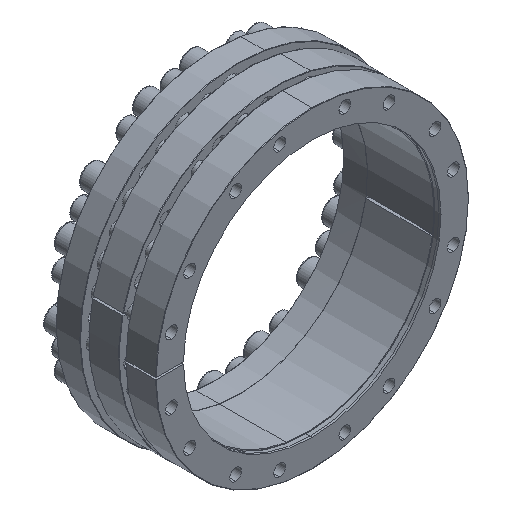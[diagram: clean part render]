
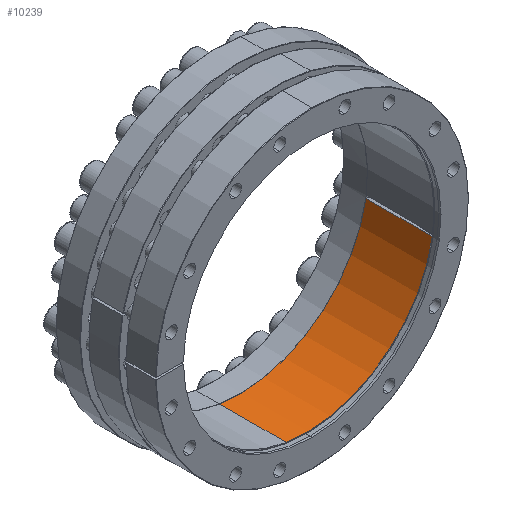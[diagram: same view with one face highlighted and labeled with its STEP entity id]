
A CAD part, isometric view. The second image highlights one B-rep face of the part: STEP entity #10239.
In plain terms, the highlighted cylindrical face has radius 190 mm (diameter 380 mm), a partial arc.
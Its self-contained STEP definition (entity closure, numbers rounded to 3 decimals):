
#722 = DIRECTION ( 'NONE',  ( 0., -1., 0. ) ) ;
#1851 = CARTESIAN_POINT ( 'NONE',  ( -29.723, 108.005, -187.661 ) ) ;
#2387 = CARTESIAN_POINT ( 'NONE',  ( 0., 108.005, 0. ) ) ;
#2584 = CARTESIAN_POINT ( 'NONE',  ( -29.723, 9.005, -187.661 ) ) ;
#4418 = CARTESIAN_POINT ( 'NONE',  ( 0., 9.005, 0. ) ) ;
#4825 = CIRCLE ( 'NONE', #48620, 190. ) ;
#4828 = LINE ( 'NONE', #30777, #23589 ) ;
#6174 = DIRECTION ( 'NONE',  ( -0.156, 0., -0.988 ) ) ;
#6777 = EDGE_CURVE ( 'NONE', #24228, #35290, #4828, .T. ) ;
#8861 = FACE_OUTER_BOUND ( 'NONE', #29542, .T. ) ;
#10239 = ADVANCED_FACE ( 'NONE', ( #8861 ), #14129, .F. ) ;
#12866 = CARTESIAN_POINT ( 'NONE',  ( 187.379, 108.005, -31.45 ) ) ;
#14129 = CYLINDRICAL_SURFACE ( 'NONE', #36913, 190. ) ;
#15752 = DIRECTION ( 'NONE',  ( 0., -1., 0. ) ) ;
#16152 = CARTESIAN_POINT ( 'NONE',  ( 0., 9.005, 0. ) ) ;
#17409 = ORIENTED_EDGE ( 'NONE', *, *, #28362, .F. ) ;
#19926 = DIRECTION ( 'NONE',  ( -0.156, 0., -0.988 ) ) ;
#20427 = EDGE_CURVE ( 'NONE', #46468, #38414, #39937, .T. ) ;
#23589 = VECTOR ( 'NONE', #722, 1000. ) ;
#24228 = VERTEX_POINT ( 'NONE', #1851 ) ;
#25567 = CARTESIAN_POINT ( 'NONE',  ( 187.379, 9.005, -31.45 ) ) ;
#25699 = ORIENTED_EDGE ( 'NONE', *, *, #20427, .T. ) ;
#28362 = EDGE_CURVE ( 'NONE', #24228, #38414, #4825, .T. ) ;
#28611 = DIRECTION ( 'NONE',  ( 0., -1., 0. ) ) ;
#29312 = DIRECTION ( 'NONE',  ( 0., 1., 0. ) ) ;
#29542 = EDGE_LOOP ( 'NONE', ( #17409, #45865, #46436, #25699 ) ) ;
#30124 = CIRCLE ( 'NONE', #47726, 190. ) ;
#30777 = CARTESIAN_POINT ( 'NONE',  ( -29.723, 9.005, -187.661 ) ) ;
#30802 = DIRECTION ( 'NONE',  ( -0.156, 0., -0.988 ) ) ;
#31181 = VECTOR ( 'NONE', #29312, 1000. ) ;
#35290 = VERTEX_POINT ( 'NONE', #2584 ) ;
#36307 = EDGE_CURVE ( 'NONE', #35290, #46468, #30124, .T. ) ;
#36913 = AXIS2_PLACEMENT_3D ( 'NONE', #4418, #15752, #30802 ) ;
#37360 = CARTESIAN_POINT ( 'NONE',  ( 187.379, 9.005, -31.45 ) ) ;
#38414 = VERTEX_POINT ( 'NONE', #12866 ) ;
#39937 = LINE ( 'NONE', #25567, #31181 ) ;
#42322 = DIRECTION ( 'NONE',  ( 0., -1., 0. ) ) ;
#45865 = ORIENTED_EDGE ( 'NONE', *, *, #6777, .T. ) ;
#46436 = ORIENTED_EDGE ( 'NONE', *, *, #36307, .T. ) ;
#46468 = VERTEX_POINT ( 'NONE', #37360 ) ;
#47726 = AXIS2_PLACEMENT_3D ( 'NONE', #16152, #42322, #19926 ) ;
#48620 = AXIS2_PLACEMENT_3D ( 'NONE', #2387, #28611, #6174 ) ;
